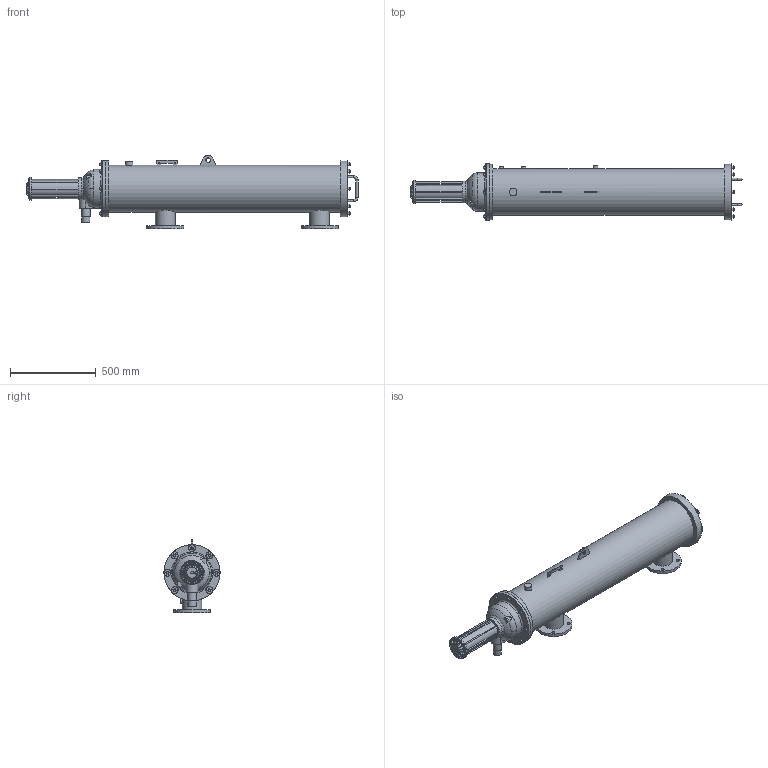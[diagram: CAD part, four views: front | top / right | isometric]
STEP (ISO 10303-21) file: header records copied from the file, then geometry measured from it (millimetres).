
FILE_DESCRIPTION( ( 'Unknown' ), '1' );
FILE_NAME( 'D:/SE/for Itzik/m104 lp 4inch.stp', 'Unknown', ( 'Unknown' ), ( 'Unknown' ), 'XStep 1.0', 'Unknown', ' ' );
FILE_SCHEMA( ( 'CONFIG_CONTROL_DESIGN' ) );
Length unit declared in the file: millimetre
Products named in the file (3): Assem1; 1; 2
Bounding box: 1936.3 x 327 x 431.52 mm (x, y, z)
Volume: 191068226.4 mm3; surface area: 3903098.3 mm2
Topology: 5 solids, 7 shells, 1532 faces, 4009 edges, 2637 vertices
Faces by surface type: plane 1004, cylinder 370, bspline 94, cone 34, torus 28, revolution 2
Full cylindrical faces by diameter (mm): 5 x2, 6.322 x48, 6.5 x4, 10.97 x16, 12 x12, 12.7 x32, 14 x2, 16 x16, 17.5 x12, 25 x6, 25.2 x2, 26 x2, 28 x2, 40 x32, 45 x2, 47.803 x2, 48.4 x2, 97 x2, 114.3 x4, 116 x3, 126 x2, 127 x2, 216 x3, 226 x2, 273.05 x2, 273.5 x2, 325 x4, 327 x2
Entity records: 26960 total; most frequent: CARTESIAN_POINT 9215, ORIENTED_EDGE 3580, DIRECTION 3470, EDGE_CURVE 1790, AXIS2_PLACEMENT_3D 1273, VERTEX_POINT 1243, EDGE_LOOP 1025, LINE 923
